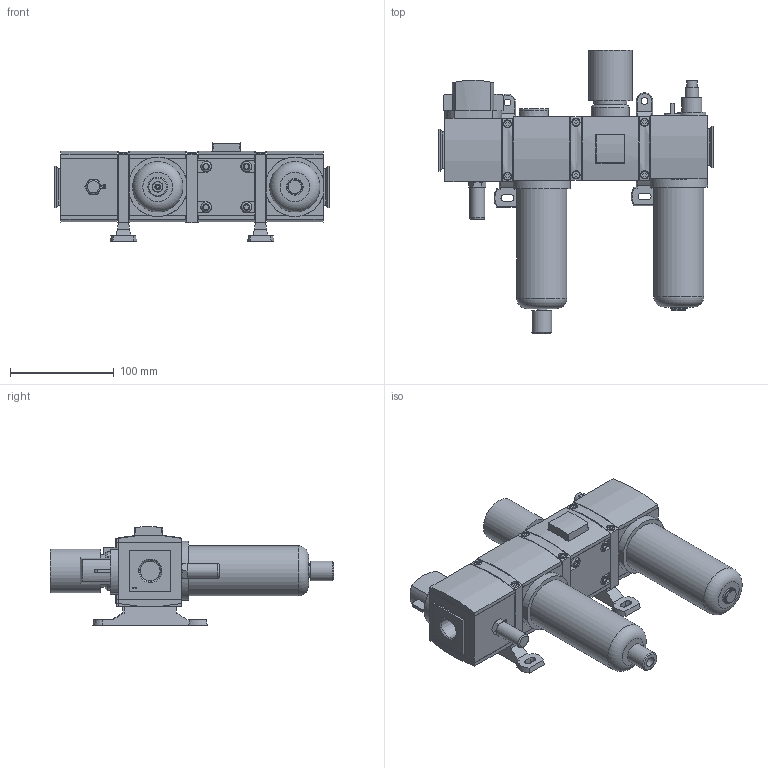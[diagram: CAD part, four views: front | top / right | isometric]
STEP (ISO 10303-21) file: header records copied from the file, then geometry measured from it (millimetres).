
FILE_DESCRIPTION( ( 'STEP AP214' ), '1' );
FILE_NAME( 'p:/temp/worker_275/temp/exporttempdir_5452_903_OWoLV/format_0/07092020-200214_gen_28872.stp', '2020-02-07T19:09:16', ( '' ), ( '' ), ' ', 'PARTsolutions', ' ' );
FILE_SCHEMA( ( 'AUTOMOTIVE_DESIGN { 1 0 10303 214 1 1 1 1 }' ) );
Length unit declared in the file: millimetre
Products named in the file (20): 07092020-200214_gen_28872; _433433015-F--0-A00129L; _433441-002-SV-0; _437742-001-100; _M2MN_652; _G652ASLA0B00A00_LS; _431787-003-F-A00PJBN1; _440511-008-P; _440512-002-N; _433441-001-R-0; _439851-002; _G652ASLA0A00A00_LS; _437794-003-F-HGL; _433441-001-R-H; _438047-009; _433879-001; _433894-001; _440508-001-STANDARD; _433456-015-F-KA00; _440512-001_plug
Assembly tree (26 placements, depth 2):
  07092020-200214_gen_28872
    _433433015-F--0-A00129L
    _433441-002-SV-0  x4
    _437742-001-100
    _M2MN_652
    _G652ASLA0B00A00_LS  x2
    _431787-003-F-A00PJBN1
    _440511-008-P  x2
    _440512-002-N
    _433441-001-R-0  x3
    _439851-002
    _G652ASLA0A00A00_LS
    _437794-003-F-HGL
    _433441-001-R-H
    _438047-009
    _433879-001
    _433894-001
    _440508-001-STANDARD
    _433456-015-F-KA00
    _440512-001_plug
Bounding box: 264 x 272.52 x 94.91 mm (x, y, z)
Volume: 1676167 mm3; surface area: 294939.5 mm2
Topology: 26 solids, 26 shells, 965 faces, 2304 edges, 1495 vertices
Faces by surface type: plane 761, cylinder 122, cone 67, torus 14, sphere 1
Full cylindrical faces by diameter (mm): 2.8 x2, 3 x2, 5 x1, 5.6 x8, 6.3 x8, 6.5 x2, 7 x6, 7.8 x6, 8.25 x4, 9.728 x2, 10 x9, 13 x1, 13.5 x1, 14.224 x1, 15.1 x1, 15.875 x1, 16 x1, 19 x1, 19.2 x1, 19.4 x1, 27 x1, 28.5 x1, 31.6 x1, 37 x1, 41.845 x1, 48.5 x2
Entity records: 32085 total; most frequent: CARTESIAN_POINT 4825, DIRECTION 4015, ORIENTED_EDGE 3912, EDGE_CURVE 1956, LINE 1595, VECTOR 1595, VERTEX_POINT 1340, AXIS2_PLACEMENT_3D 1210
